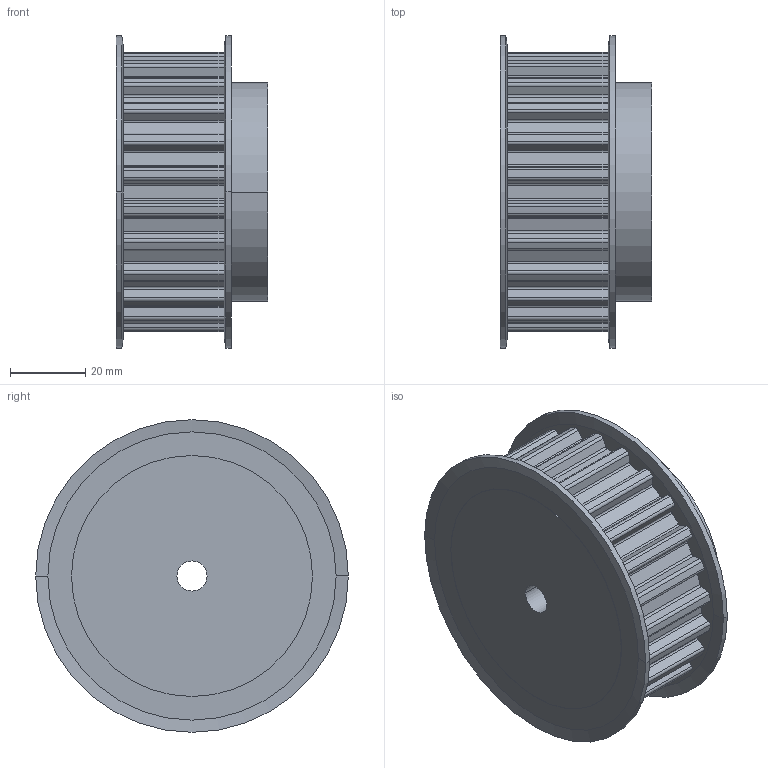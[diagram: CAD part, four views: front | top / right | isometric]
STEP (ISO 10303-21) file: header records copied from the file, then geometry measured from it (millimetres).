
FILE_DESCRIPTION( ( '' ), '1' );
FILE_NAME( 'C:/Users/Stangenbergd/Documents/CAD_Step/1/16432400.stp', '2021-10-19T08:55:27', ( '' ), ( '' ), ' ', ' ', ' ' );
FILE_SCHEMA( ( 'CONFIG_CONTROL_DESIGN' ) );
Length unit declared in the file: millimetre
Products named in the file (1): 1
Bounding box: 40.31 x 83 x 83 mm (x, y, z)
Volume: 146396.2 mm3; surface area: 26187.1 mm2
Topology: 1 solids, 1 shells, 219 faces, 628 edges, 416 vertices
Faces by surface type: cylinder 132, plane 79, cone 8
Entity records: 7318 total; most frequent: DIRECTION 1340, CARTESIAN_POINT 1264, ORIENTED_EDGE 1256, EDGE_CURVE 628, AXIS2_PLACEMENT_3D 492, VERTEX_POINT 416, LINE 356, VECTOR 356
